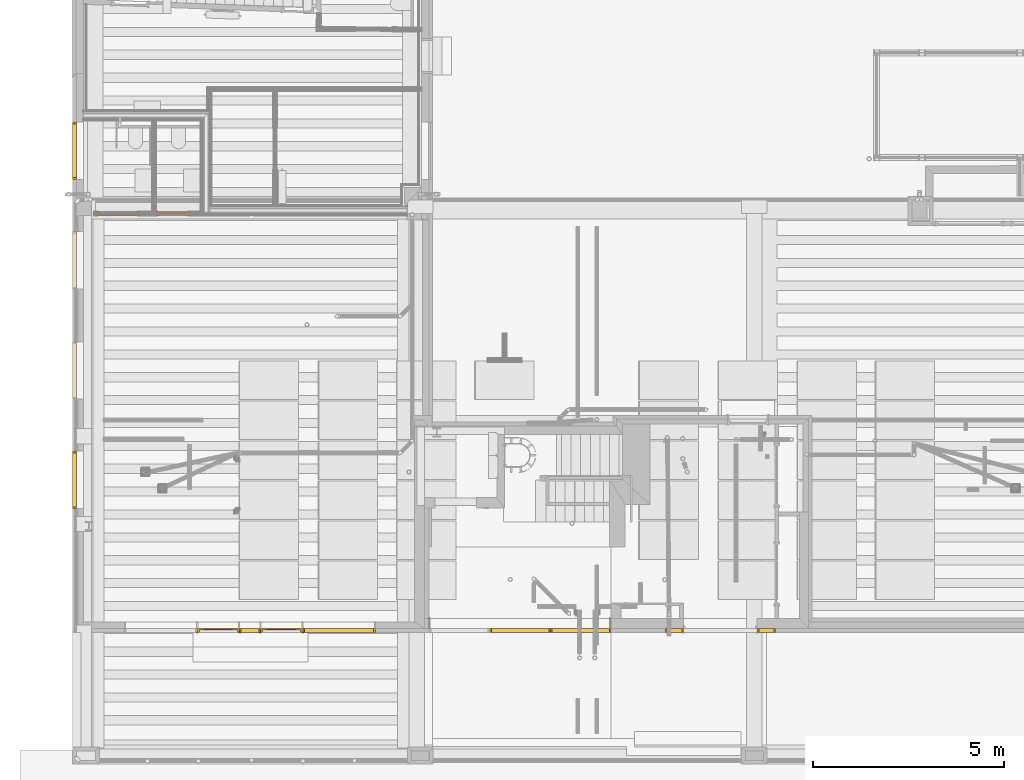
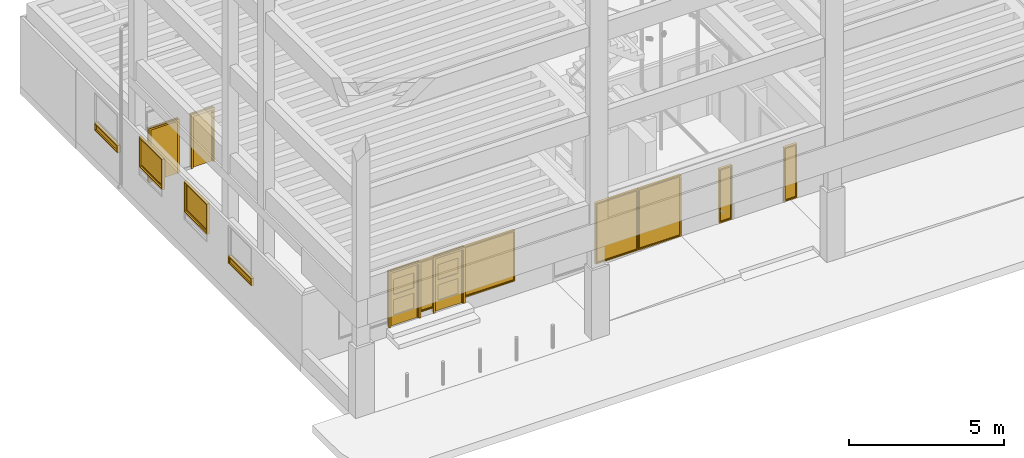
# One storey, part 27 of 108: 10 windows, 4 doors.
"""IFC2X3 building model written with IfcOpenShell, lengths in metres."""

from ifc_helpers import new_model, entity, si_unit, converted_unit, derived_unit, money_unit, direction, frame, origin_with_axes, place, context, subcontext, project, spatial, faceted_brep, material, type_object, element, save


model = new_model("IFC2X3")

# Units and contexts
model_context = context("Model", 3, precision=1e-05, world=origin_with_axes(), true_north=direction((0.0, 1.0)))
body_context = subcontext(model_context, "Body", "Model", "MODEL_VIEW", scale=1.0)
ifc_project = project(units=[si_unit("LENGTHUNIT", "METRE"), si_unit("AREAUNIT", "SQUARE_METRE"), si_unit("VOLUMEUNIT", "CUBIC_METRE"), si_unit("ABSORBEDDOSEUNIT", "GRAY"), si_unit("AMOUNTOFSUBSTANCEUNIT", "MOLE"), si_unit("DOSEEQUIVALENTUNIT", "SIEVERT"), si_unit("ELECTRICCAPACITANCEUNIT", "FARAD"), si_unit("ELECTRICCHARGEUNIT", "COULOMB"), si_unit("ELECTRICCONDUCTANCEUNIT", "SIEMENS"), si_unit("ELECTRICCURRENTUNIT", "AMPERE"), si_unit("ELECTRICRESISTANCEUNIT", "OHM"), si_unit("ELECTRICVOLTAGEUNIT", "VOLT"), si_unit("ENERGYUNIT", "JOULE"), si_unit("FORCEUNIT", "NEWTON"), si_unit("FREQUENCYUNIT", "HERTZ"), si_unit("ILLUMINANCEUNIT", "LUX"), si_unit("INDUCTANCEUNIT", "HENRY"), si_unit("LUMINOUSFLUXUNIT", "LUMEN"), si_unit("LUMINOUSINTENSITYUNIT", "CANDELA"), si_unit("MAGNETICFLUXDENSITYUNIT", "TESLA"), si_unit("MAGNETICFLUXUNIT", "WEBER"), si_unit("MASSUNIT", "GRAM"), converted_unit("PLANEANGLEUNIT", "degree", entity("IfcReal", 0.0174532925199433), si_unit("PLANEANGLEUNIT", "RADIAN"), dimensions=[0, 0, 0, 0, 0, 0, 0]), si_unit("POWERUNIT", "WATT"), si_unit("PRESSUREUNIT", "PASCAL"), si_unit("RADIOACTIVITYUNIT", "BECQUEREL"), si_unit("SOLIDANGLEUNIT", "STERADIAN"), si_unit("THERMODYNAMICTEMPERATUREUNIT", "KELVIN"), si_unit("TIMEUNIT", "SECOND"), derived_unit("ACCELERATIONUNIT", [(si_unit("LENGTHUNIT", "METRE"), 1), (si_unit("TIMEUNIT", "SECOND"), -2)]), derived_unit("ANGULARVELOCITYUNIT", [(converted_unit("PLANEANGLEUNIT", "degree", entity("IfcReal", 0.0174532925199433), si_unit("PLANEANGLEUNIT", "RADIAN"), dimensions=[0, 0, 0, 0, 0, 0, 0]), 1), (si_unit("TIMEUNIT", "SECOND"), -1)]), derived_unit("CURVATUREUNIT", [(converted_unit("PLANEANGLEUNIT", "degree", entity("IfcReal", 0.0174532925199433), si_unit("PLANEANGLEUNIT", "RADIAN"), dimensions=[0, 0, 0, 0, 0, 0, 0]), 1), (si_unit("LENGTHUNIT", "METRE"), -1)]), derived_unit("DYNAMICVISCOSITYUNIT", [(si_unit("PRESSUREUNIT", "PASCAL"), 1), (si_unit("TIMEUNIT", "SECOND"), 1)]), derived_unit("HEATFLUXDENSITYUNIT", [(si_unit("POWERUNIT", "WATT"), 1), (si_unit("LENGTHUNIT", "METRE"), -2)]), derived_unit("HEATINGVALUEUNIT", [(si_unit("ENERGYUNIT", "JOULE"), 1), (si_unit("MASSUNIT", "GRAM"), -1)]), derived_unit("INTEGERCOUNTRATEUNIT", [(si_unit("TIMEUNIT", "SECOND"), -1)]), derived_unit("IONCONCENTRATIONUNIT", [(si_unit("MASSUNIT", "GRAM"), 1), (si_unit("VOLUMEUNIT", "CUBIC_METRE"), -1)]), derived_unit("ISOTHERMALMOISTURECAPACITYUNIT", [(si_unit("VOLUMEUNIT", "CUBIC_METRE"), 1), (si_unit("MASSUNIT", "GRAM"), -1)]), derived_unit("KINEMATICVISCOSITYUNIT", [(si_unit("AREAUNIT", "SQUARE_METRE"), 1), (si_unit("TIMEUNIT", "SECOND"), -1)]), derived_unit("LINEARFORCEUNIT", [(si_unit("FORCEUNIT", "NEWTON"), 1), (si_unit("LENGTHUNIT", "METRE"), -1)]), derived_unit("LINEARMOMENTUNIT", [(si_unit("FORCEUNIT", "NEWTON"), 1), (si_unit("LENGTHUNIT", "METRE"), -1)]), derived_unit("LINEARSTIFFNESSUNIT", [(si_unit("FORCEUNIT", "NEWTON"), 1), (si_unit("LENGTHUNIT", "METRE"), -1)]), derived_unit("LINEARVELOCITYUNIT", [(si_unit("LENGTHUNIT", "METRE"), 1), (si_unit("TIMEUNIT", "SECOND"), -1)]), derived_unit("LUMINOUSINTENSITYDISTRIBUTIONUNIT", [(si_unit("LUMINOUSINTENSITYUNIT", "CANDELA"), 1), (si_unit("LUMINOUSFLUXUNIT", "LUMEN"), -1)]), derived_unit("MASSDENSITYUNIT", [(si_unit("MASSUNIT", "GRAM"), 1), (si_unit("VOLUMEUNIT", "CUBIC_METRE"), -1)]), derived_unit("MASSFLOWRATEUNIT", [(si_unit("MASSUNIT", "GRAM"), 1), (si_unit("TIMEUNIT", "SECOND"), -1)]), derived_unit("MASSPERLENGTHUNIT", [(si_unit("MASSUNIT", "GRAM"), 1), (si_unit("LENGTHUNIT", "METRE"), -1)]), derived_unit("MODULUSOFELASTICITYUNIT", [(si_unit("FORCEUNIT", "NEWTON"), 1), (si_unit("AREAUNIT", "SQUARE_METRE"), -1)]), derived_unit("MODULUSOFLINEARSUBGRADEREACTIONUNIT", [(si_unit("FORCEUNIT", "NEWTON"), 1), (si_unit("LENGTHUNIT", "METRE"), -2)]), derived_unit("MODULUSOFROTATIONALSUBGRADEREACTIONUNIT", [(si_unit("FORCEUNIT", "NEWTON"), 1), (si_unit("LENGTHUNIT", "METRE"), 1)]), derived_unit("MODULUSOFSUBGRADEREACTIONUNIT", [(si_unit("FORCEUNIT", "NEWTON"), 1), (si_unit("VOLUMEUNIT", "CUBIC_METRE"), -1)]), derived_unit("MOISTUREDIFFUSIVITYUNIT", [(si_unit("VOLUMEUNIT", "CUBIC_METRE"), 1), (si_unit("TIMEUNIT", "SECOND"), -1)]), derived_unit("MOLECULARWEIGHTUNIT", [(si_unit("MASSUNIT", "GRAM"), 1), (si_unit("AMOUNTOFSUBSTANCEUNIT", "MOLE"), -1)]), derived_unit("PLANARFORCEUNIT", [(si_unit("FORCEUNIT", "NEWTON"), 1), (si_unit("LENGTHUNIT", "METRE"), -2)]), derived_unit("ROTATIONALFREQUENCYUNIT", [(si_unit("TIMEUNIT", "SECOND"), -1)]), derived_unit("ROTATIONALMASSUNIT", [(si_unit("MASSUNIT", "GRAM"), 1), (si_unit("LENGTHUNIT", "METRE"), 2)]), derived_unit("ROTATIONALSTIFFNESSUNIT", [(si_unit("FORCEUNIT", "NEWTON"), 1), (si_unit("LENGTHUNIT", "METRE"), 1), (converted_unit("PLANEANGLEUNIT", "degree", entity("IfcReal", 0.0174532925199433), si_unit("PLANEANGLEUNIT", "RADIAN"), dimensions=[0, 0, 0, 0, 0, 0, 0]), -1)]), derived_unit("SECTIONAREAINTEGRALUNIT", [(si_unit("LENGTHUNIT", "METRE"), 5)]), derived_unit("SECTIONMODULUSUNIT", [(si_unit("LENGTHUNIT", "METRE"), 3)]), derived_unit("SHEARMODULUSUNIT", [(si_unit("FORCEUNIT", "NEWTON"), 1), (si_unit("AREAUNIT", "SQUARE_METRE"), -1)]), derived_unit("SOUNDPOWERUNIT", [(si_unit("ENERGYUNIT", "JOULE"), 1), (si_unit("TIMEUNIT", "SECOND"), -1)]), derived_unit("SPECIFICHEATCAPACITYUNIT", [(si_unit("FORCEUNIT", "NEWTON"), 1), (si_unit("MASSUNIT", "GRAM"), -1), (si_unit("THERMODYNAMICTEMPERATUREUNIT", "KELVIN"), -1)]), derived_unit("TEMPERATUREGRADIENTUNIT", [(si_unit("THERMODYNAMICTEMPERATUREUNIT", "KELVIN"), 1), (si_unit("LENGTHUNIT", "METRE"), -1)]), derived_unit("THERMALADMITTANCEUNIT", [(si_unit("POWERUNIT", "WATT"), 1), (si_unit("AREAUNIT", "SQUARE_METRE"), -1), (si_unit("THERMODYNAMICTEMPERATUREUNIT", "KELVIN"), -1)]), derived_unit("THERMALCONDUCTANCEUNIT", [(si_unit("POWERUNIT", "WATT"), 1), (si_unit("LENGTHUNIT", "METRE"), -1), (si_unit("THERMODYNAMICTEMPERATUREUNIT", "KELVIN"), -1)]), derived_unit("THERMALEXPANSIONCOEFFICIENTUNIT", [(si_unit("THERMODYNAMICTEMPERATUREUNIT", "KELVIN"), -1)]), derived_unit("THERMALRESISTANCEUNIT", [(si_unit("AREAUNIT", "SQUARE_METRE"), 1), (si_unit("POWERUNIT", "WATT"), -1)]), derived_unit("THERMALTRANSMITTANCEUNIT", [(si_unit("POWERUNIT", "WATT"), 1), (si_unit("AREAUNIT", "SQUARE_METRE"), -1), (si_unit("THERMODYNAMICTEMPERATUREUNIT", "KELVIN"), -1)]), derived_unit("TORQUEUNIT", [(si_unit("FORCEUNIT", "NEWTON"), 1), (si_unit("LENGTHUNIT", "METRE"), 1)]), derived_unit("VAPORPERMEABILITYUNIT", [(si_unit("MASSUNIT", "GRAM"), 1), (si_unit("TIMEUNIT", "SECOND"), -1)]), derived_unit("VOLUMETRICFLOWRATEUNIT", [(si_unit("VOLUMEUNIT", "CUBIC_METRE"), 1), (si_unit("TIMEUNIT", "SECOND"), -1)]), derived_unit("WARPINGCONSTANTUNIT", [(si_unit("LENGTHUNIT", "METRE"), 6)]), derived_unit("WARPINGMOMENTUNIT", [(si_unit("FORCEUNIT", "NEWTON"), 1), (si_unit("LENGTHUNIT", "METRE"), 2)]), money_unit("GBP")], contexts=[model_context])

# Site, building, storey, space
site_placement = place(None, origin_with_axes())
site = spatial("IfcSite", under=ifc_project, at=site_placement, Name="Site", CompositionType="ELEMENT")
building_placement = place(site_placement, origin_with_axes())
building = spatial("IfcBuilding", under=site, at=building_placement, Name="Building01", CompositionType="ELEMENT")
storey_placement = place(building_placement, origin_with_axes())
storey = spatial("IfcBuildingStorey", under=building, at=storey_placement, Name="GF", CompositionType="ELEMENT", Elevation=0.0)
space_1_placement = place(storey_placement, frame((0.665095, 0.0, 0.0), z_axis=(0.0, 0.0, 1.0), x_axis=(1.0, -4.064e-05, 0.0)))
space_1 = spatial("IfcSpace", under=storey, at=space_1_placement, Name="UNDERCROFT (front)", CompositionType="ELEMENT", InteriorOrExteriorSpace="NOTDEFINED")

# Windows
ifc_material_1 = material(Name="A_BSUK_Window_Frames")
window_style_1 = type_object("IfcWindowStyle", Name="A-Fixed", ConstructionType="NOTDEFINED", OperationType="USERDEFINED", ParameterTakesPrecedence=False, Sizeable=False)
window_1_placement = place(storey_placement, frame((4.926681, 3.458391, 0.398), z_axis=(0.0, 0.0, 1.0), x_axis=(1.0, 0.0, 0.0)))
element("IfcWindow", 1, at=window_1_placement, inside=space_1, type_object=window_style_1, material=ifc_material_1, Name="0.03", ObjectType="A-Fixed", OverallHeight=2.00000000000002, OverallWidth=0.550000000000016, context=body_context, shape_type="Brep", body=[
    faceted_brep([(-0.042, 0.0, 0.042), (-0.042, 0.0, 1.958), (-0.042, 0.1, 1.958), (-0.042, 0.1, 0.042), (0.0, 0.1, 2.0), (-0.55, 0.1, 2.0), (-0.55, 0.0, 2.0), (0.0, 0.0, 2.0), (0.0, 0.1, 0.0), (0.0, 0.0, 0.0), (-0.55, 0.1, 0.0), (-0.55, 0.0, 0.0), (-0.508, 0.1, 1.958), (-0.508, 0.1, 0.042), (-0.508, 0.0, 0.042), (-0.508, 0.0, 1.958)], [[[0, 1, 2, 3]], [[4, 5, 6, 7]], [[8, 4, 7, 9]], [[10, 8, 9, 11]], [[5, 10, 11, 6]], [[5, 4, 8, 10], [3, 2, 12, 13]], [[14, 0, 3, 13]], [[15, 14, 13, 12]], [[1, 15, 12, 2]], [[9, 7, 6, 11], [15, 1, 0, 14]]]),
    faceted_brep([(-0.042, 0.053175, 1.958), (-0.042, 0.046825, 1.958), (-0.042, 0.046825, 0.042), (-0.042, 0.053175, 0.042), (-0.508, 0.053175, 0.042), (-0.508, 0.046825, 0.042), (-0.508, 0.046825, 1.958), (-0.508, 0.053175, 1.958)], [[[0, 1, 2, 3]], [[4, 5, 6, 7]], [[3, 2, 5, 4]], [[3, 4, 7, 0]], [[7, 6, 1, 0]], [[1, 6, 5, 2]]]),
])
window_2_placement = place(storey_placement, frame((7.941681, 3.458391, 0.398), z_axis=(0.0, 0.0, 1.0), x_axis=(1.0, 0.0, 0.0)))
element("IfcWindow", 2, at=window_2_placement, inside=space_1, type_object=window_style_1, material=ifc_material_1, Name="0.04", ObjectType="A-Fixed", OverallHeight=2.00000000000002, OverallWidth=1.90000000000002, context=body_context, shape_type="Brep", body=[
    faceted_brep([(-0.042, 0.0, 0.042), (-0.042, 0.0, 1.958), (-0.042, 0.1, 1.958), (-0.042, 0.1, 0.042), (0.0, 0.1, 2.0), (-1.9, 0.1, 2.0), (-1.9, 0.0, 2.0), (0.0, 0.0, 2.0), (0.0, 0.1, 0.0), (0.0, 0.0, 0.0), (-1.9, 0.1, 0.0), (-1.9, 0.0, 0.0), (-1.858, 0.1, 1.958), (-1.858, 0.1, 0.042), (-1.858, 0.0, 0.042), (-1.858, 0.0, 1.958)], [[[0, 1, 2, 3]], [[4, 5, 6, 7]], [[8, 4, 7, 9]], [[10, 8, 9, 11]], [[5, 10, 11, 6]], [[5, 4, 8, 10], [3, 2, 12, 13]], [[14, 0, 3, 13]], [[15, 14, 13, 12]], [[1, 15, 12, 2]], [[9, 7, 6, 11], [15, 1, 0, 14]]]),
    faceted_brep([(-0.042, 0.053175, 1.958), (-0.042, 0.046825, 1.958), (-0.042, 0.046825, 0.042), (-0.042, 0.053175, 0.042), (-1.858, 0.053175, 0.042), (-1.858, 0.046825, 0.042), (-1.858, 0.046825, 1.958), (-1.858, 0.053175, 1.958)], [[[0, 1, 2, 3]], [[4, 5, 6, 7]], [[3, 2, 5, 4]], [[3, 4, 7, 0]], [[7, 6, 1, 0]], [[1, 6, 5, 2]]]),
])

# Space
space_2_placement = place(storey_placement, frame((3.380525, 16.69365, 0.216987), z_axis=(0.0, 0.0, 1.0), x_axis=(-1.0, 0.0, 0.0)))
space_2 = spatial("IfcSpace", under=storey, at=space_2_placement, Name="0", CompositionType="ELEMENT", InteriorOrExteriorSpace="NOTDEFINED")

# Window
window_3_placement = place(storey_placement, frame((0.000252, 6.710738, 0.998), z_axis=(0.0, 0.0, 1.0), x_axis=(0.0, -1.0, 0.0)))
element("IfcWindow", 3, at=window_3_placement, inside=space_2, type_object=window_style_1, material=ifc_material_1, Name="0.11", ObjectType="A-Fixed", OverallHeight=0.300000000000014, OverallWidth=1.50000000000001, context=body_context, shape_type="Brep", body=[
    faceted_brep([(-0.042, 0.0, 0.042), (-0.042, 0.0, 0.258), (-0.042, 0.1, 0.258), (-0.042, 0.1, 0.042), (0.0, 0.1, 0.3), (-1.5, 0.1, 0.3), (-1.5, 0.0, 0.3), (0.0, 0.0, 0.3), (0.0, 0.1, 0.0), (0.0, 0.0, 0.0), (-1.5, 0.1, 0.0), (-1.5, 0.0, 0.0), (-1.458, 0.1, 0.258), (-1.458, 0.1, 0.042), (-1.458, 0.0, 0.042), (-1.458, 0.0, 0.258)], [[[0, 1, 2, 3]], [[4, 5, 6, 7]], [[8, 4, 7, 9]], [[10, 8, 9, 11]], [[5, 10, 11, 6]], [[5, 4, 8, 10], [3, 2, 12, 13]], [[14, 0, 3, 13]], [[15, 14, 13, 12]], [[1, 15, 12, 2]], [[9, 7, 6, 11], [15, 1, 0, 14]]]),
    faceted_brep([(-0.042, 0.053175, 0.258), (-0.042, 0.046825, 0.258), (-0.042, 0.046825, 0.042), (-0.042, 0.053175, 0.042), (-1.458, 0.053175, 0.042), (-1.458, 0.046825, 0.042), (-1.458, 0.046825, 0.258), (-1.458, 0.053175, 0.258)], [[[0, 1, 2, 3]], [[4, 5, 6, 7]], [[3, 2, 5, 4]], [[3, 4, 7, 0]], [[7, 6, 1, 0]], [[1, 6, 5, 2]]]),
])

# Space
space_3_placement = place(storey_placement, frame((0.280851, 16.893647, 0.217025), z_axis=(0.0, 0.0, 1.0), x_axis=(0.0, -1.0, 0.0)))
space_3 = spatial("IfcSpace", under=storey, at=space_3_placement, Name="F", CompositionType="ELEMENT", InteriorOrExteriorSpace="NOTDEFINED")

# Windows
window_4_placement = place(storey_placement, frame((0.000573, 15.34279, 0.998), z_axis=(0.0, 0.0, 1.0), x_axis=(0.0, -1.0, 0.0)))
element("IfcWindow", 4, at=window_4_placement, inside=space_3, type_object=window_style_1, material=ifc_material_1, Name="0.16", ObjectType="A-Fixed", OverallHeight=0.300000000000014, OverallWidth=1.50000000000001, context=body_context, shape_type="Brep", body=[
    faceted_brep([(-0.042, 0.0, 0.042), (-0.042, 0.0, 0.258), (-0.042, 0.1, 0.258), (-0.042, 0.1, 0.042), (0.0, 0.1, 0.3), (-1.5, 0.1, 0.3), (-1.5, 0.0, 0.3), (0.0, 0.0, 0.3), (0.0, 0.1, 0.0), (0.0, 0.0, 0.0), (-1.5, 0.1, 0.0), (-1.5, 0.0, 0.0), (-1.458, 0.1, 0.258), (-1.458, 0.1, 0.042), (-1.458, 0.0, 0.042), (-1.458, 0.0, 0.258)], [[[0, 1, 2, 3]], [[4, 5, 6, 7]], [[8, 4, 7, 9]], [[10, 8, 9, 11]], [[5, 10, 11, 6]], [[5, 4, 8, 10], [3, 2, 12, 13]], [[14, 0, 3, 13]], [[15, 14, 13, 12]], [[1, 15, 12, 2]], [[9, 7, 6, 11], [15, 1, 0, 14]]]),
    faceted_brep([(-0.042, 0.053175, 0.258), (-0.042, 0.046825, 0.258), (-0.042, 0.046825, 0.042), (-0.042, 0.053175, 0.042), (-1.458, 0.053175, 0.042), (-1.458, 0.046825, 0.042), (-1.458, 0.046825, 0.258), (-1.458, 0.053175, 0.258)], [[[0, 1, 2, 3]], [[4, 5, 6, 7]], [[3, 2, 5, 4]], [[3, 4, 7, 0]], [[7, 6, 1, 0]], [[1, 6, 5, 2]]]),
])
for number, where, z_axis, x_axis, name in (
    (5, (12.534099, 3.458391, 0.0), (0.0, 0.0, 1.0), (1.0, 0.0, 0.0), "0.05"),
    (6, (14.124099, 3.458391, 0.0), (0.0, 0.0, 1.0), (1.0, 0.0, 0.0), "0.07"),
):
    element("IfcWindow", number, at=place(storey_placement, frame(where, z_axis=z_axis, x_axis=x_axis)), inside=space_1, type_object=window_style_1, material=ifc_material_1, Name=name, ObjectType="A-Fixed", OverallHeight=2.40000000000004, OverallWidth=1.59000000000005, context=body_context, shape_type="Brep", body=[
        faceted_brep([(-0.042, 0.0, 0.042), (-0.042, 0.0, 2.358), (-0.042, 0.1, 2.358), (-0.042, 0.1, 0.042), (0.0, 0.1, 2.4), (-1.59, 0.1, 2.4), (-1.59, 0.0, 2.4), (0.0, 0.0, 2.4), (0.0, 0.1, 0.0), (0.0, 0.0, 0.0), (-1.59, 0.1, 0.0), (-1.59, 0.0, 0.0), (-1.548, 0.1, 2.358), (-1.548, 0.1, 0.042), (-1.548, 0.0, 0.042), (-1.548, 0.0, 2.358)], [[[0, 1, 2, 3]], [[4, 5, 6, 7]], [[8, 4, 7, 9]], [[10, 8, 9, 11]], [[5, 10, 11, 6]], [[5, 4, 8, 10], [3, 2, 12, 13]], [[14, 0, 3, 13]], [[15, 14, 13, 12]], [[1, 15, 12, 2]], [[9, 7, 6, 11], [15, 1, 0, 14]]]),
        faceted_brep([(-0.042, 0.053175, 2.358), (-0.042, 0.046825, 2.358), (-0.042, 0.046825, 0.042), (-0.042, 0.053175, 0.042), (-1.548, 0.053175, 0.042), (-1.548, 0.046825, 0.042), (-1.548, 0.046825, 2.358), (-1.548, 0.053175, 2.358)], [[[0, 1, 2, 3]], [[4, 5, 6, 7]], [[3, 2, 5, 4]], [[3, 4, 7, 0]], [[7, 6, 1, 0]], [[1, 6, 5, 2]]]),
    ])
for number, where, z_axis, x_axis, name in (
    (7, (16.026223, 3.458391, 0.0), (0.0, 0.0, 1.0), (1.0, 0.0, 0.0), "0.24"),
    (8, (18.440223, 3.458391, 0.0), (0.0, 0.0, 1.0), (1.0, 0.0, 0.0), "0.25"),
):
    element("IfcWindow", number, at=place(storey_placement, frame(where, z_axis=z_axis, x_axis=x_axis)), inside=space_1, type_object=window_style_1, material=ifc_material_1, Name=name, ObjectType="A-Fixed", OverallHeight=2.12700000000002, OverallWidth=0.480000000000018, context=body_context, shape_type="Brep", body=[
        faceted_brep([(-0.042, 0.0, 0.042), (-0.042, 0.0, 2.085), (-0.042, 0.1, 2.085), (-0.042, 0.1, 0.042), (0.0, 0.1, 2.127), (-0.48, 0.1, 2.127), (-0.48, 0.0, 2.127), (0.0, 0.0, 2.127), (0.0, 0.1, 0.0), (0.0, 0.0, 0.0), (-0.48, 0.1, 0.0), (-0.48, 0.0, 0.0), (-0.438, 0.1, 2.085), (-0.438, 0.1, 0.042), (-0.438, 0.0, 0.042), (-0.438, 0.0, 2.085)], [[[0, 1, 2, 3]], [[4, 5, 6, 7]], [[8, 4, 7, 9]], [[10, 8, 9, 11]], [[5, 10, 11, 6]], [[5, 4, 8, 10], [3, 2, 12, 13]], [[14, 0, 3, 13]], [[15, 14, 13, 12]], [[1, 15, 12, 2]], [[9, 7, 6, 11], [15, 1, 0, 14]]]),
        faceted_brep([(-0.042, 0.053175, 2.085), (-0.042, 0.046825, 2.085), (-0.042, 0.046825, 0.042), (-0.042, 0.053175, 0.042), (-0.438, 0.053175, 0.042), (-0.438, 0.046825, 0.042), (-0.438, 0.046825, 2.085), (-0.438, 0.053175, 2.085)], [[[0, 1, 2, 3]], [[4, 5, 6, 7]], [[3, 2, 5, 4]], [[3, 4, 7, 0]], [[7, 6, 1, 0]], [[1, 6, 5, 2]]]),
    ])
ifc_material_2 = material(Name="A_BSUK_Windows")
window_style_2 = type_object("IfcWindowStyle", Name="A-Awning", ConstructionType="NOTDEFINED", OperationType="USERDEFINED", ParameterTakesPrecedence=False, Sizeable=False)
for number, where, z_axis, x_axis, name in (
    (9, (0.12576, 9.575468, 1.298), (0.0, 0.0, 1.0), (0.0, 1.0, 0.0), "0.12"),
    (10, (0.125868, 12.468993, 1.298), (0.0, 0.0, 1.0), (0.0, 1.0, 0.0), "0.14"),
):
    element("IfcWindow", number, at=place(storey_placement, frame(where, z_axis=z_axis, x_axis=x_axis)), inside=space_2, type_object=window_style_2, material=ifc_material_2, Name=name, ObjectType="A-Awning", OverallHeight=1.20000000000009, OverallWidth=1.50000000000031, context=body_context, shape_type="Brep", body=[
        faceted_brep([(1.458, 0.1254, 0.042), (0.042, 0.1254, 0.042), (0.042, 0.0254, 0.042), (1.458, 0.0254, 0.042), (1.458, 0.1254, 1.158), (1.458, 0.0254, 1.158), (0.042, 0.1254, 1.158), (0.042, 0.0254, 1.158), (1.5, 0.0254, 0.0), (1.5, 0.0254, 1.2), (0.0, 0.0254, 1.2), (0.0, 0.0254, 0.0), (1.5, 0.1254, 1.2), (0.0, 0.1254, 1.2), (0.0, 0.1254, 0.0), (1.5, 0.1254, 0.0)], [[[0, 1, 2, 3]], [[4, 0, 3, 5]], [[6, 4, 5, 7]], [[8, 9, 10, 11], [3, 2, 7, 5]], [[1, 6, 7, 2]], [[10, 9, 12, 13]], [[8, 11, 14, 15]], [[9, 8, 15, 12]], [[15, 14, 13, 12], [0, 4, 6, 1]], [[11, 10, 13, 14]]]),
        faceted_brep([(1.4072, 0.0704, 0.0928), (0.0928, 0.0704, 0.0928), (0.0928, 0.0354, 0.0928), (1.4072, 0.0354, 0.0928), (1.4072, 0.0704, 1.1072), (1.4072, 0.0354, 1.1072), (0.0928, 0.0704, 1.1072), (0.0928, 0.0354, 1.1072), (1.458, 0.0704, 0.042), (0.042, 0.0704, 0.042), (0.042, 0.0704, 1.158), (1.458, 0.0704, 1.158), (0.042, 0.0354, 1.158), (1.458, 0.0354, 1.158), (0.042, 0.0354, 0.042), (1.458, 0.0354, 0.042)], [[[0, 1, 2, 3]], [[4, 0, 3, 5]], [[6, 4, 5, 7]], [[8, 9, 10, 11], [0, 4, 6, 1]], [[12, 13, 11, 10]], [[14, 12, 10, 9]], [[15, 14, 9, 8]], [[13, 15, 8, 11]], [[15, 13, 12, 14], [3, 2, 7, 5]], [[1, 6, 7, 2]]]),
        faceted_brep([(0.0928, 0.049725, 1.1072), (0.0928, 0.056075, 1.1072), (0.0928, 0.056075, 0.0928), (0.0928, 0.049725, 0.0928), (1.4072, 0.049725, 0.0928), (1.4072, 0.056075, 0.0928), (1.4072, 0.056075, 1.1072), (1.4072, 0.049725, 1.1072)], [[[0, 1, 2, 3]], [[4, 5, 6, 7]], [[7, 6, 1, 0]], [[3, 4, 7, 0]], [[3, 2, 5, 4]], [[1, 6, 5, 2]]]),
    ])

# Doors
ifc_material_3 = material(Name="A_BSUK_Doors")
door_style_1 = type_object("IfcDoorStyle", Name="A-Doors-SingleFlush", ConstructionType="USERDEFINED", OperationType="SINGLE_SWING_RIGHT", ParameterTakesPrecedence=False, Sizeable=False)
door_1_placement = place(storey_placement, frame((1.683113, 14.4, 0.198), z_axis=(0.0, 0.0, 1.0), x_axis=(-1.0, 0.0, 0.0)))
element("IfcDoor", 11, at=door_1_placement, inside=space_2, type_object=door_style_1, material=ifc_material_3, Name="0.15", ObjectType="A-Doors-SingleFlush", OverallHeight=2.12700000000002, OverallWidth=1.13800000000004, context=body_context, shape_type="Brep", body=[
    faceted_brep([(1.0, -0.099, 0.0), (1.069, -0.099, 0.0), (1.069, -0.099, 2.127), (-0.069, -0.099, 2.127), (-0.069, -0.099, 0.0), (0.0, -0.099, 0.0), (0.0, -0.099, 2.058), (1.0, -0.099, 2.058), (-0.069, -0.08, 0.0), (-0.069, -0.08, 2.127), (1.069, -0.08, 2.127), (1.069, -0.08, 0.0), (1.0, 0.019, 0.0), (1.069, 0.019, 0.0), (1.069, 0.0, 0.0), (1.042, 0.0, 0.0), (1.042, -0.08, 0.0), (1.0, 0.019, 2.058), (0.0, 0.019, 2.058), (0.0, 0.019, 0.0), (-0.069, 0.019, 0.0), (-0.069, 0.019, 2.127), (1.069, 0.019, 2.127), (1.069, 0.0, 2.127), (1.042, -0.08, 2.1), (1.042, 0.0, 2.1), (-0.042, -0.08, 2.1), (-0.042, 0.0, 2.1), (-0.042, -0.08, 0.0), (-0.042, 0.0, 0.0), (-0.069, 0.0, 2.127), (-0.069, 0.0, 0.0)], [[[0, 1, 2, 3, 4, 5, 6, 7]], [[8, 4, 3, 9]], [[10, 2, 1, 11]], [[9, 3, 2, 10]], [[12, 13, 14, 15, 16, 11, 1, 0]], [[7, 17, 12, 0]], [[6, 18, 17, 7]], [[18, 19, 20, 21, 22, 13, 12, 17]], [[5, 19, 18, 6]], [[13, 22, 23, 14]], [[24, 16, 15, 25]], [[26, 24, 25, 27]], [[11, 16, 24, 26, 28, 8, 9, 10]], [[27, 29, 28, 26]], [[25, 15, 14, 23, 30, 31, 29, 27]], [[5, 4, 8, 28, 29, 31, 20, 19]], [[30, 21, 20, 31]], [[23, 22, 21, 30]]]),
    faceted_brep([(0.0, -0.09, 2.058), (0.0, -0.04, 2.058), (0.0, -0.04, 0.0), (0.0, -0.09, 0.0), (0.975, -0.09, 0.0), (1.0, -0.09, 0.0), (1.0, -0.09, 2.058), (0.025, -0.09, 0.0), (0.025, -0.09, 2.033), (0.975, -0.09, 2.033), (0.975, -0.04, 0.0), (1.0, -0.04, 0.0), (1.0, -0.04, 2.058), (0.025, -0.04, 2.033), (0.025, -0.04, 0.0), (0.975, -0.04, 2.033)], [[[0, 1, 2, 3]], [[4, 5, 6, 0, 3, 7, 8, 9]], [[10, 11, 5, 4]], [[6, 12, 1, 0]], [[5, 11, 12, 6]], [[13, 14, 2, 1, 12, 11, 10, 15]], [[7, 14, 13, 8]], [[7, 3, 2, 14]], [[9, 15, 10, 4]], [[8, 13, 15, 9]]]),
    faceted_brep([(1.0, -0.04, 0.0), (1.0, 0.0, 0.0), (1.0, 0.0, 2.058), (1.0, -0.04, 2.058), (0.0, -0.04, 2.058), (0.0, 0.0, 2.058), (0.0, 0.0, 0.0), (0.0, -0.04, 0.0)], [[[0, 1, 2, 3]], [[4, 5, 6, 7]], [[7, 6, 1, 0]], [[3, 4, 7, 0]], [[3, 2, 5, 4]], [[1, 6, 5, 2]]]),
])
door_style_2 = type_object("IfcDoorStyle", Name="A-Doors-SingleVisionPanels", ConstructionType="USERDEFINED", OperationType="SINGLE_SWING_LEFT", ParameterTakesPrecedence=False, Sizeable=False)
door_2_placement = place(storey_placement, frame((3.299681, 3.558391, 0.198), z_axis=(0.0, 0.0, 1.0), x_axis=(1.0, 0.0, 0.0)))
element("IfcDoor", 12, at=door_2_placement, inside=space_2, type_object=door_style_2, material=ifc_material_3, Name="0.13", ObjectType="A-Doors-SingleVisionPanels", OverallHeight=2.19900000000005, OverallWidth=1.18800000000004, context=body_context, shape_type="Brep", body=[
    faceted_brep([(0.0, -0.119, 2.13), (1.05, -0.119, 2.13), (1.05, -0.119, 0.0), (1.119, -0.119, 0.0), (1.119, -0.119, 2.199), (-0.069, -0.119, 2.199), (-0.069, -0.119, 0.0), (0.0, -0.119, 0.0), (1.119, -0.1, 2.199), (1.119, -0.1, 0.0), (-0.069, -0.1, 0.0), (-0.069, -0.1, 2.199), (-0.042, -0.1, 0.0), (-0.042, 0.0, 0.0), (-0.069, 0.0, 0.0), (-0.069, 0.019, 0.0), (0.0, 0.019, 0.0), (0.0, 0.019, 2.13), (1.05, 0.019, 2.13), (-0.069, 0.019, 2.199), (1.119, 0.019, 2.199), (1.119, 0.019, 0.0), (1.05, 0.019, 0.0), (-0.069, 0.0, 2.199), (-0.042, 0.0, 2.172), (-0.042, -0.1, 2.172), (1.092, 0.0, 2.172), (1.092, -0.1, 2.172), (1.092, -0.1, 0.0), (1.092, 0.0, 0.0), (1.119, 0.0, 0.0), (1.119, 0.0, 2.199)], [[[0, 1, 2, 3, 4, 5, 6, 7]], [[8, 4, 3, 9]], [[10, 6, 5, 11]], [[11, 5, 4, 8]], [[7, 6, 10, 12, 13, 14, 15, 16]], [[7, 16, 17, 0]], [[0, 17, 18, 1]], [[17, 16, 15, 19, 20, 21, 22, 18]], [[1, 18, 22, 2]], [[14, 23, 19, 15]], [[24, 13, 12, 25]], [[26, 24, 25, 27]], [[11, 8, 9, 28, 27, 25, 12, 10]], [[27, 28, 29, 26]], [[26, 29, 30, 31, 23, 14, 13, 24]], [[22, 21, 30, 29, 28, 9, 3, 2]], [[30, 21, 20, 31]], [[31, 20, 19, 23]]]),
    faceted_brep([(1.05, -0.09, 0.0), (1.05, -0.04, 0.0), (1.05, -0.04, 2.13), (1.05, -0.09, 2.13), (0.025, -0.09, 2.105), (1.025, -0.09, 2.105), (1.025, -0.09, 0.0), (0.0, -0.09, 2.13), (0.0, -0.09, 0.0), (0.025, -0.09, 0.0), (0.0, -0.04, 0.0), (0.025, -0.04, 0.0), (0.0, -0.04, 2.13), (0.025, -0.04, 2.105), (1.025, -0.04, 0.0), (1.025, -0.04, 2.105)], [[[0, 1, 2, 3]], [[4, 5, 6, 0, 3, 7, 8, 9]], [[9, 8, 10, 11]], [[3, 2, 12, 7]], [[7, 12, 10, 8]], [[13, 11, 10, 12, 2, 1, 14, 15]], [[5, 15, 14, 6]], [[14, 1, 0, 6]], [[9, 11, 13, 4]], [[4, 13, 15, 5]]]),
    faceted_brep([(0.15, -0.017, 0.4), (0.15, -0.023, 0.4), (0.15, -0.023, 1.0), (0.15, -0.017, 1.0), (0.9, -0.017, 1.0), (0.9, -0.023, 1.0), (0.9, -0.023, 0.4), (0.9, -0.017, 0.4)], [[[0, 1, 2, 3]], [[4, 5, 6, 7]], [[3, 2, 5, 4]], [[3, 4, 7, 0]], [[7, 6, 1, 0]], [[1, 6, 5, 2]]]),
    faceted_brep([(0.15, -0.017, 1.2), (0.15, -0.023, 1.2), (0.15, -0.023, 1.8), (0.15, -0.017, 1.8), (0.9, -0.017, 1.8), (0.9, -0.023, 1.8), (0.9, -0.023, 1.2), (0.9, -0.017, 1.2)], [[[0, 1, 2, 3]], [[4, 5, 6, 7]], [[3, 2, 5, 4]], [[3, 4, 7, 0]], [[7, 6, 1, 0]], [[1, 6, 5, 2]]]),
    faceted_brep([(0.15, -0.04, 1.8), (0.15, 0.0, 1.8), (0.9, 0.0, 1.8), (0.9, -0.04, 1.8), (0.9, -0.04, 1.0), (0.9, 0.0, 1.0), (0.9, 0.0, 0.4), (0.9, -0.04, 0.4), (0.15, 0.0, 0.4), (0.15, -0.04, 0.4), (0.15, 0.0, 1.0), (0.15, -0.04, 1.0), (1.05, 0.0, 0.0), (0.0, 0.0, 0.0), (0.0, 0.0, 2.13), (1.05, 0.0, 2.13), (0.15, 0.0, 1.2), (0.9, 0.0, 1.2), (1.05, -0.04, 0.0), (1.05, -0.04, 2.13), (0.0, -0.04, 2.13), (0.0, -0.04, 0.0), (0.9, -0.04, 1.2), (0.15, -0.04, 1.2)], [[[0, 1, 2, 3]], [[4, 5, 6, 7]], [[7, 6, 8, 9]], [[9, 8, 10, 11]], [[11, 10, 5, 4]], [[12, 13, 14, 15], [5, 10, 8, 6], [2, 1, 16, 17]], [[18, 12, 15, 19]], [[19, 15, 14, 20]], [[20, 14, 13, 21]], [[21, 13, 12, 18]], [[3, 2, 17, 22]], [[22, 17, 16, 23]], [[23, 16, 1, 0]], [[19, 20, 21, 18], [9, 11, 4, 7], [23, 0, 3, 22]]]),
])
door_style_3 = type_object("IfcDoorStyle", Name="A-Doors-SingleVisionPanels", ConstructionType="USERDEFINED", OperationType="SINGLE_SWING_RIGHT", ParameterTakesPrecedence=False, Sizeable=False)
door_3_placement = place(storey_placement, frame((4.953681, 3.558391, 0.198), z_axis=(0.0, 0.0, 1.0), x_axis=(1.0, 0.0, 0.0)))
element("IfcDoor", 13, at=door_3_placement, inside=space_2, type_object=door_style_3, material=ifc_material_3, Name="0.14", ObjectType="A-Doors-SingleVisionPanels", OverallHeight=2.19900000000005, OverallWidth=1.18800000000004, context=body_context, shape_type="Brep", body=[
    faceted_brep([(1.05, -0.119, 0.0), (1.119, -0.119, 0.0), (1.119, -0.119, 2.199), (-0.069, -0.119, 2.199), (-0.069, -0.119, 0.0), (0.0, -0.119, 0.0), (0.0, -0.119, 2.13), (1.05, -0.119, 2.13), (-0.069, -0.1, 0.0), (-0.069, -0.1, 2.199), (1.119, -0.1, 2.199), (1.119, -0.1, 0.0), (1.05, 0.019, 0.0), (1.119, 0.019, 0.0), (1.119, 0.0, 0.0), (1.092, 0.0, 0.0), (1.092, -0.1, 0.0), (1.05, 0.019, 2.13), (0.0, 0.019, 2.13), (0.0, 0.019, 0.0), (-0.069, 0.019, 0.0), (-0.069, 0.019, 2.199), (1.119, 0.019, 2.199), (1.119, 0.0, 2.199), (1.092, -0.1, 2.172), (1.092, 0.0, 2.172), (-0.042, -0.1, 2.172), (-0.042, 0.0, 2.172), (-0.042, -0.1, 0.0), (-0.042, 0.0, 0.0), (-0.069, 0.0, 2.199), (-0.069, 0.0, 0.0)], [[[0, 1, 2, 3, 4, 5, 6, 7]], [[8, 4, 3, 9]], [[10, 2, 1, 11]], [[9, 3, 2, 10]], [[12, 13, 14, 15, 16, 11, 1, 0]], [[7, 17, 12, 0]], [[6, 18, 17, 7]], [[18, 19, 20, 21, 22, 13, 12, 17]], [[5, 19, 18, 6]], [[13, 22, 23, 14]], [[24, 16, 15, 25]], [[26, 24, 25, 27]], [[11, 16, 24, 26, 28, 8, 9, 10]], [[27, 29, 28, 26]], [[25, 15, 14, 23, 30, 31, 29, 27]], [[5, 4, 8, 28, 29, 31, 20, 19]], [[30, 21, 20, 31]], [[23, 22, 21, 30]]]),
    faceted_brep([(0.0, -0.09, 2.13), (0.0, -0.04, 2.13), (0.0, -0.04, 0.0), (0.0, -0.09, 0.0), (1.025, -0.09, 0.0), (1.05, -0.09, 0.0), (1.05, -0.09, 2.13), (0.025, -0.09, 0.0), (0.025, -0.09, 2.105), (1.025, -0.09, 2.105), (1.025, -0.04, 0.0), (1.05, -0.04, 0.0), (1.05, -0.04, 2.13), (0.025, -0.04, 2.105), (0.025, -0.04, 0.0), (1.025, -0.04, 2.105)], [[[0, 1, 2, 3]], [[4, 5, 6, 0, 3, 7, 8, 9]], [[10, 11, 5, 4]], [[6, 12, 1, 0]], [[5, 11, 12, 6]], [[13, 14, 2, 1, 12, 11, 10, 15]], [[7, 14, 13, 8]], [[7, 3, 2, 14]], [[9, 15, 10, 4]], [[8, 13, 15, 9]]]),
    faceted_brep([(0.9, -0.017, 1.0), (0.9, -0.023, 1.0), (0.9, -0.023, 0.4), (0.9, -0.017, 0.4), (0.15, -0.017, 0.4), (0.15, -0.023, 0.4), (0.15, -0.023, 1.0), (0.15, -0.017, 1.0)], [[[0, 1, 2, 3]], [[4, 5, 6, 7]], [[7, 6, 1, 0]], [[3, 4, 7, 0]], [[3, 2, 5, 4]], [[1, 6, 5, 2]]]),
    faceted_brep([(0.9, -0.017, 1.8), (0.9, -0.023, 1.8), (0.9, -0.023, 1.2), (0.9, -0.017, 1.2), (0.15, -0.017, 1.2), (0.15, -0.023, 1.2), (0.15, -0.023, 1.8), (0.15, -0.017, 1.8)], [[[0, 1, 2, 3]], [[4, 5, 6, 7]], [[7, 6, 1, 0]], [[3, 4, 7, 0]], [[3, 2, 5, 4]], [[1, 6, 5, 2]]]),
    faceted_brep([(0.15, -0.04, 1.8), (0.15, 0.0, 1.8), (0.9, 0.0, 1.8), (0.9, -0.04, 1.8), (0.15, -0.04, 0.4), (0.15, 0.0, 0.4), (0.15, 0.0, 1.0), (0.15, -0.04, 1.0), (0.9, -0.04, 0.4), (0.9, 0.0, 0.4), (0.9, -0.04, 1.0), (0.9, 0.0, 1.0), (0.0, 0.0, 2.13), (1.05, 0.0, 2.13), (1.05, 0.0, 0.0), (0.0, 0.0, 0.0), (0.15, 0.0, 1.2), (0.9, 0.0, 1.2), (0.0, -0.04, 2.13), (0.0, -0.04, 0.0), (1.05, -0.04, 2.13), (1.05, -0.04, 0.0), (0.15, -0.04, 1.2), (0.9, -0.04, 1.2)], [[[0, 1, 2, 3]], [[4, 5, 6, 7]], [[8, 9, 5, 4]], [[10, 11, 9, 8]], [[7, 6, 11, 10]], [[12, 13, 14, 15], [5, 9, 11, 6], [16, 17, 2, 1]], [[18, 12, 15, 19]], [[20, 13, 12, 18]], [[21, 14, 13, 20]], [[19, 15, 14, 21]], [[22, 16, 1, 0]], [[23, 17, 16, 22]], [[3, 2, 17, 23]], [[19, 21, 20, 18], [4, 7, 10, 8], [22, 0, 3, 23]]]),
])
door_style_4 = type_object("IfcDoorStyle", Name="A-Doors-SingleFlush", ConstructionType="USERDEFINED", OperationType="SINGLE_SWING_LEFT", ParameterTakesPrecedence=False, Sizeable=False)
door_4_placement = place(storey_placement, frame((2.255525, 14.48, 0.198), z_axis=(0.0, 0.0, 1.0), x_axis=(1.0, 0.0, 0.0)))
element("IfcDoor", 14, at=door_4_placement, inside=space_2, type_object=door_style_4, material=ifc_material_3, Name="0.16", ObjectType="A-Doors-SingleFlush", OverallHeight=2.12700000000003, OverallWidth=0.888000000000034, context=body_context, shape_type="Brep", body=[
    faceted_brep([(0.0, -0.099, 2.058), (0.75, -0.099, 2.058), (0.75, -0.099, 0.0), (0.819, -0.099, 0.0), (0.819, -0.099, 2.127), (-0.069, -0.099, 2.127), (-0.069, -0.099, 0.0), (0.0, -0.099, 0.0), (0.819, -0.08, 2.127), (0.819, -0.08, 0.0), (-0.069, -0.08, 0.0), (-0.069, -0.08, 2.127), (-0.042, -0.08, 0.0), (-0.042, 0.0, 0.0), (-0.069, 0.0, 0.0), (-0.069, 0.019, 0.0), (0.0, 0.019, 0.0), (0.0, 0.019, 2.058), (0.75, 0.019, 2.058), (-0.069, 0.019, 2.127), (0.819, 0.019, 2.127), (0.819, 0.019, 0.0), (0.75, 0.019, 0.0), (-0.069, 0.0, 2.127), (-0.042, 0.0, 2.1), (-0.042, -0.08, 2.1), (0.792, 0.0, 2.1), (0.792, -0.08, 2.1), (0.792, -0.08, 0.0), (0.792, 0.0, 0.0), (0.819, 0.0, 0.0), (0.819, 0.0, 2.127)], [[[0, 1, 2, 3, 4, 5, 6, 7]], [[8, 4, 3, 9]], [[10, 6, 5, 11]], [[11, 5, 4, 8]], [[7, 6, 10, 12, 13, 14, 15, 16]], [[7, 16, 17, 0]], [[0, 17, 18, 1]], [[17, 16, 15, 19, 20, 21, 22, 18]], [[1, 18, 22, 2]], [[14, 23, 19, 15]], [[24, 13, 12, 25]], [[26, 24, 25, 27]], [[11, 8, 9, 28, 27, 25, 12, 10]], [[27, 28, 29, 26]], [[26, 29, 30, 31, 23, 14, 13, 24]], [[22, 21, 30, 29, 28, 9, 3, 2]], [[30, 21, 20, 31]], [[31, 20, 19, 23]]]),
    faceted_brep([(0.75, -0.09, 0.0), (0.75, -0.04, 0.0), (0.75, -0.04, 2.058), (0.75, -0.09, 2.058), (0.025, -0.09, 2.033), (0.725, -0.09, 2.033), (0.725, -0.09, 0.0), (0.0, -0.09, 2.058), (0.0, -0.09, 0.0), (0.025, -0.09, 0.0), (0.0, -0.04, 0.0), (0.025, -0.04, 0.0), (0.0, -0.04, 2.058), (0.025, -0.04, 2.033), (0.725, -0.04, 0.0), (0.725, -0.04, 2.033)], [[[0, 1, 2, 3]], [[4, 5, 6, 0, 3, 7, 8, 9]], [[9, 8, 10, 11]], [[3, 2, 12, 7]], [[7, 12, 10, 8]], [[13, 11, 10, 12, 2, 1, 14, 15]], [[5, 15, 14, 6]], [[14, 1, 0, 6]], [[9, 11, 13, 4]], [[4, 13, 15, 5]]]),
    faceted_brep([(0.0, -0.04, 2.058), (0.0, 0.0, 2.058), (0.0, 0.0, 0.0), (0.0, -0.04, 0.0), (0.75, -0.04, 0.0), (0.75, 0.0, 0.0), (0.75, 0.0, 2.058), (0.75, -0.04, 2.058)], [[[0, 1, 2, 3]], [[4, 5, 6, 7]], [[3, 2, 5, 4]], [[3, 4, 7, 0]], [[7, 6, 1, 0]], [[1, 6, 5, 2]]]),
])

save(model, "model.ifc")
